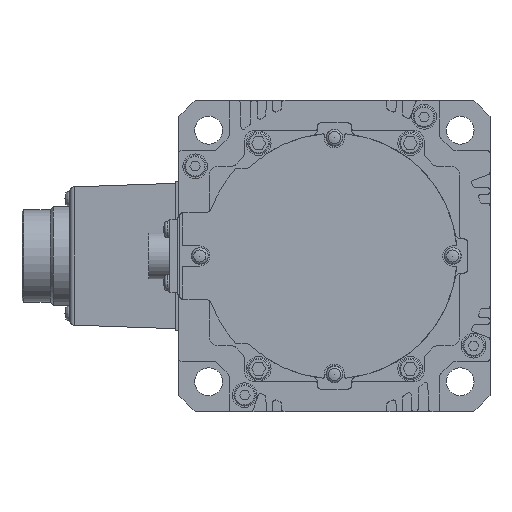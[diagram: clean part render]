
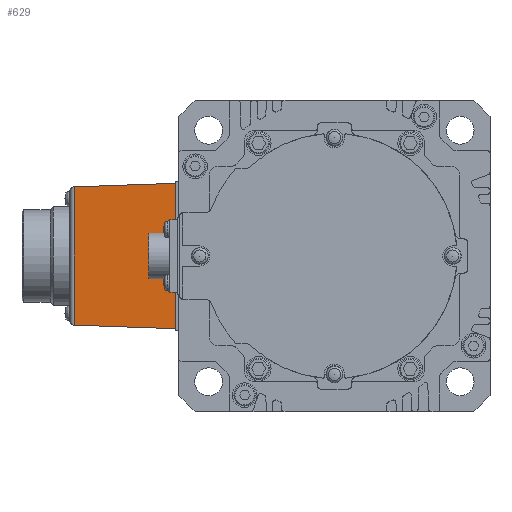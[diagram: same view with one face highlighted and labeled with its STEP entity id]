
A CAD part, left-side view. The second image highlights one B-rep face of the part: STEP entity #629.
In plain terms, the highlighted planar face has unit normal (-0.999, 0.035, 0).
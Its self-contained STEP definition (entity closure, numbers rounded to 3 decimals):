
#629 = ADVANCED_FACE( '', ( #1803 ), #1804, .F. );
#1803 = FACE_OUTER_BOUND( '', #3662, .T. );
#1804 = PLANE( '', #3663 );
#3662 = EDGE_LOOP( '', ( #5687, #5688, #5689, #5690 ) );
#3663 = AXIS2_PLACEMENT_3D( '', #5691, #5692, #5693 );
#5687 = ORIENTED_EDGE( '', *, *, #10722, .F. );
#5688 = ORIENTED_EDGE( '', *, *, #10723, .T. );
#5689 = ORIENTED_EDGE( '', *, *, #10724, .F. );
#5690 = ORIENTED_EDGE( '', *, *, #10725, .F. );
#5691 = CARTESIAN_POINT( '', ( -102.051, 84.152, 24. ) );
#5692 = DIRECTION( '', ( 0.999, -0.035, 0. ) );
#5693 = DIRECTION( '', ( 0.035, 0.999, 0. ) );
#10722 = EDGE_CURVE( '', #12732, #12733, #12734, .T. );
#10723 = EDGE_CURVE( '', #12732, #12735, #12736, .T. );
#10724 = EDGE_CURVE( '', #12737, #12735, #12738, .T. );
#10725 = EDGE_CURVE( '', #12733, #12737, #12739, .T. );
#12732 = VERTEX_POINT( '', #15671 );
#12733 = VERTEX_POINT( '', #15672 );
#12734 = LINE( '', #15673, #15674 );
#12735 = VERTEX_POINT( '', #15675 );
#12736 = LINE( '', #15676, #15677 );
#12737 = VERTEX_POINT( '', #15678 );
#12738 = LINE( '', #15679, #15680 );
#12739 = LINE( '', #15681, #15682 );
#15671 = CARTESIAN_POINT( '', ( -102.051, 84.152, 22.353 ) );
#15672 = CARTESIAN_POINT( '', ( -103.198, 51.3, 23.5 ) );
#15673 = CARTESIAN_POINT( '', ( -102.053, 84.095, 22.355 ) );
#15674 = VECTOR( '', #19719, 1000. );
#15675 = CARTESIAN_POINT( '', ( -102.051, 84.152, -22.353 ) );
#15676 = CARTESIAN_POINT( '', ( -102.051, 84.152, 24. ) );
#15677 = VECTOR( '', #19720, 1000. );
#15678 = CARTESIAN_POINT( '', ( -103.198, 51.3, -23.5 ) );
#15679 = CARTESIAN_POINT( '', ( -101.994, 85.767, -22.296 ) );
#15680 = VECTOR( '', #19721, 1000. );
#15681 = CARTESIAN_POINT( '', ( -103.198, 51.3, 24. ) );
#15682 = VECTOR( '', #19722, 1000. );
#19719 = DIRECTION( '', ( -0.035, -0.999, 0.035 ) );
#19720 = DIRECTION( '', ( 0., 0., -1. ) );
#19721 = DIRECTION( '', ( 0.035, 0.999, 0.035 ) );
#19722 = DIRECTION( '', ( 0., 0., -1. ) );
